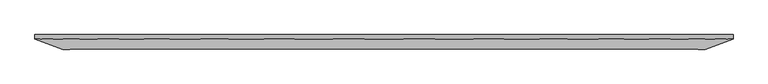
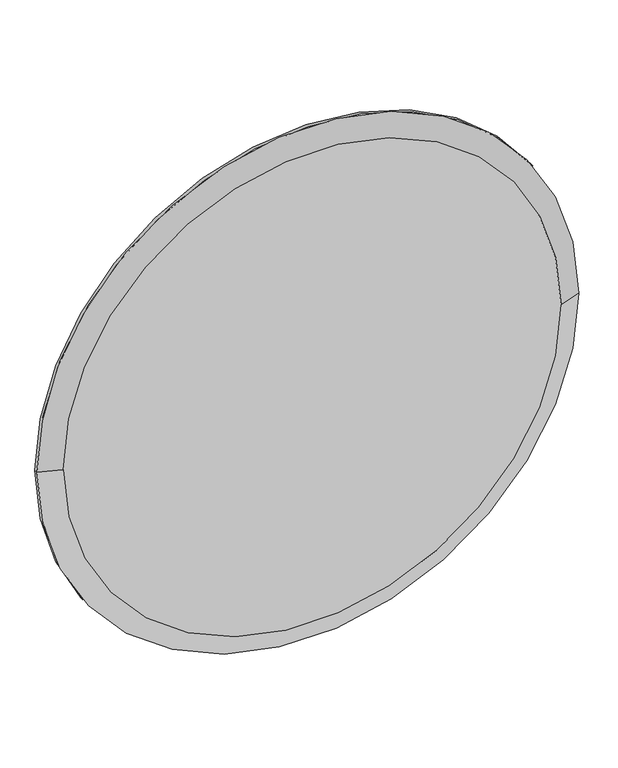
"""IFC4 building model written with IfcOpenShell, lengths in millimetres: proxy geometry, GRADIENT^TABLE 2_RADIUS BASE-TOP."""

from ifc_helpers import new_model, si_unit, frame, origin, place, context, project, spatial, polyline, circle_curve, source, transform, mapped, element, save
from ifc_brep_helpers import plane_surface, cylinder_surface, revolved_surface, advanced_brep


def generic_models_7079357f(model_context):
    return source(origin(), model_context, "Body", "AdvancedBrep", [
        advanced_brep(
        [(762.0, 733.425, 0.0), (762.0, 742.95, 0.0), (-762.0, 742.95, 0.0), (-762.0, 733.425, 0.0), (-700.9373144, 711.2, 0.0), (700.9373144, 711.2, 0.0)],
        [
            (0, 1),
            (1, 2, circle_curve(frame((0.0, 742.95, 0.0), z_axis=(0.0, -1.0, 0.0), x_axis=(1.0, 0.0, 0.0)), 762.0)),
            (2, 3),
            (3, 0, circle_curve(frame((0.0, 733.425, 0.0), z_axis=(0.0, 1.0, 0.0), x_axis=(1.0, 0.0, 0.0)), 762.0)),
            (4, 3),
            (3, 0, circle_curve(frame((0.0, 733.425, 0.0), z_axis=(0.0, -1.0, 0.0), x_axis=(1.0, 0.0, 0.0)), 762.0)),
            (0, 5),
            (5, 4, circle_curve(frame((0.0, 711.2, 0.0), z_axis=(0.0, 1.0, 0.0), x_axis=(1.0, 0.0, 0.0)), 700.9373144)),
            (1, 2, circle_curve(frame((0.0, 742.95, 0.0), z_axis=(0.0, 1.0, 0.0), x_axis=(1.0, 0.0, 0.0)), 762.0)),
            (5, 4, circle_curve(frame((0.0, 711.2, 0.0), z_axis=(0.0, -1.0, 0.0), x_axis=(-1.0, 0.0, 0.0)), 700.9373144)),
        ],
        [
            cylinder_surface(frame((0.0, 711.2, 0.0), z_axis=(0.0, 1.0, 0.0), x_axis=(1.0, 0.0, 0.0)), 762.0),
            revolved_surface(polyline([(-700.9373143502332, 711.2, 0.0), (-762.0, 733.425, 0.0)]), (0.0, 456.0796815, 0.0), (0.0, 1.0, 0.0)),
            plane_surface(frame((0.0, 742.95, 0.0), z_axis=(0.0, 1.0, 0.0), x_axis=(0.0, 0.0, 1.0))),
            plane_surface(frame((0.0, 711.2, 0.0), z_axis=(0.0, -1.0, 0.0), x_axis=(0.0, 0.0, 1.0))),
        ],
        [
            (0, [[1, 2, 3, 4]]),
            (1, [[5, 6, 7, 8]]),
            (2, [[9, -2]]),
            (3, [[-8, 10]]),
            (1, [[-5, -10, -7, -4]]),
            (0, [[-1, -6, -3, -9]]),
        ],
    ),
    ])


if __name__ == "__main__":
    model = new_model("IFC4")
    model_context = context("Model", 3, world=origin())
    ifc_project = project(units=[si_unit("LENGTHUNIT", "METRE", prefix="MILLI")], contexts=[model_context])
    site = spatial("IfcSite", under=ifc_project)
    building = spatial("IfcBuilding", under=site)
    placement = place(None, origin())
    generic_models_shape = generic_models_7079357f(model_context)
    element("IfcBuildingElementProxy", 1, Name="GRADIENT^TABLE 2_RADIUS BASE-TOP", ObjectType="GRADIENT^TABLE 2_RADIUS BASE-TOP", at=placement, inside=building, context=model_context, shape_type="MappedRepresentation", body=[
        mapped(generic_models_shape, transform((0.0, 0.0, 0.0), x_axis=(1.0, 0.0, 0.0), y_axis=(0.0, 1.0, 0.0), z_axis=(0.0, 0.0, 1.0))),
    ])
    save(model, "model.ifc")
